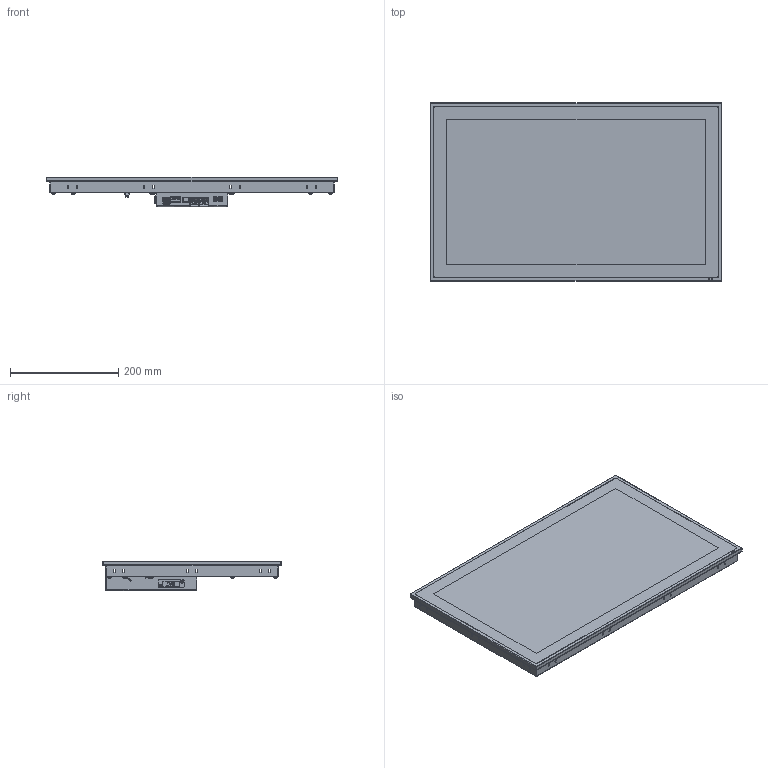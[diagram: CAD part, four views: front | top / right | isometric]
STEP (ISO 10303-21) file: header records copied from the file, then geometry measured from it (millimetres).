
FILE_DESCRIPTION (( 'STEP AP214' ), '1' );
FILE_NAME ('ETT2134 (01-230-2134) 20190408.STEP', '2019-04-08T14:56:17', ( 'Windows-Benutzer' ), ( '' ), 'SwSTEP 2.0', 'SolidWorks 2018', '' );
FILE_SCHEMA (( 'AUTOMOTIVE_DESIGN' ));
Length unit declared in the file: millimetre
Products named in the file (1): ETT2134 (01-230-2134) 20190408
Bounding box: 539 x 331 x 55 mm (x, y, z)
Surface area: 1238589.5 mm2 (no closed solid volume)
Topology: 0 solids, 81 shells, 6571 faces, 17265 edges, 10986 vertices
Faces by surface type: plane 3899, cylinder 1756, cone 412, bspline 373, torus 99, sphere 32
Full cylindrical faces by diameter (mm): 0.2 x1, 0.9 x1
Entity records: 288656 total; most frequent: CARTESIAN_POINT 53980, ORIENTED_EDGE 34436, DIRECTION 32183, EDGE_CURVE 17223, VECTOR 12009, LINE 12009, VERTEX_POINT 10986, AXIS2_PLACEMENT_3D 10087
